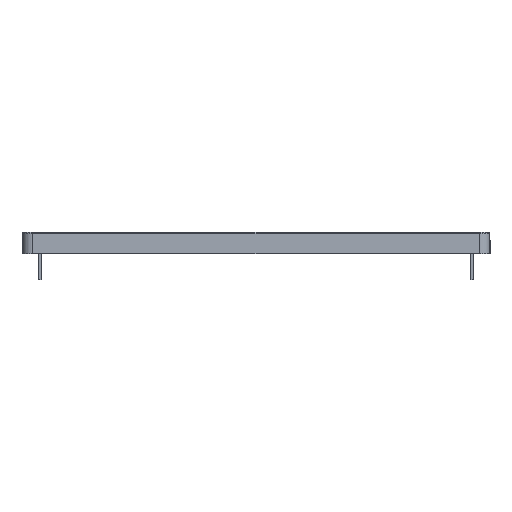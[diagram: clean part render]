
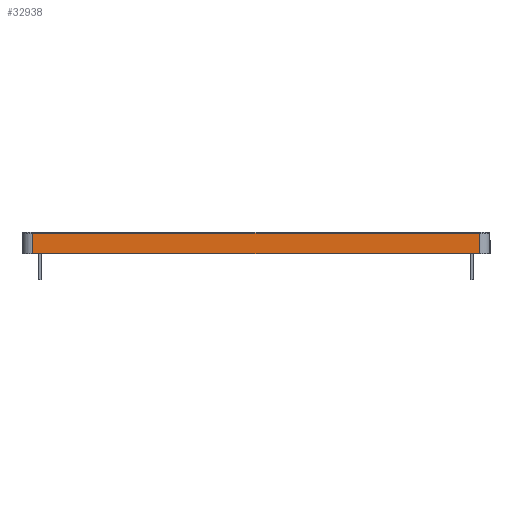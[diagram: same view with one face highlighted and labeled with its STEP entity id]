
A CAD part, front view. The second image highlights one B-rep face of the part: STEP entity #32938.
In plain terms, the highlighted planar face has unit normal (0, -1, 0).
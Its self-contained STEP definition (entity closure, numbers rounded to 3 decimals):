
#1294 = PLANE('',#1295);
#1295 = AXIS2_PLACEMENT_3D('',#1296,#1297,#1298);
#1296 = CARTESIAN_POINT('',(-106.8,-192.95,15.25));
#1297 = DIRECTION('',(0.,0.,1.));
#1298 = DIRECTION('',(1.,0.,-0.));
#1712 = PLANE('',#1713);
#1713 = AXIS2_PLACEMENT_3D('',#1714,#1715,#1716);
#1714 = CARTESIAN_POINT('',(102.,-192.7,24.75));
#1715 = DIRECTION('',(0.,0.707,-0.707));
#1716 = DIRECTION('',(-1.,0.,-0.));
#21785 = VERTEX_POINT('',#21786);
#21786 = CARTESIAN_POINT('',(-102.,-192.95,15.25));
#21801 = CYLINDRICAL_SURFACE('',#21802,4.8);
#21802 = AXIS2_PLACEMENT_3D('',#21803,#21804,#21805);
#21803 = CARTESIAN_POINT('',(-102.,-188.15,15.25));
#21804 = DIRECTION('',(0.,0.,1.));
#21805 = DIRECTION('',(-1.,-0.,0.));
#21813 = EDGE_CURVE('',#21785,#21814,#21816,.T.);
#21814 = VERTEX_POINT('',#21815);
#21815 = CARTESIAN_POINT('',(102.,-192.95,15.25));
#21816 = SURFACE_CURVE('',#21817,(#21821,#21828),.PCURVE_S1.);
#21817 = LINE('',#21818,#21819);
#21818 = CARTESIAN_POINT('',(-106.8,-192.95,15.25));
#21819 = VECTOR('',#21820,1.);
#21820 = DIRECTION('',(1.,0.,0.));
#21821 = PCURVE('',#1294,#21822);
#21822 = DEFINITIONAL_REPRESENTATION('',(#21823),#21827);
#21823 = LINE('',#21824,#21825);
#21824 = CARTESIAN_POINT('',(0.,0.));
#21825 = VECTOR('',#21826,1.);
#21826 = DIRECTION('',(1.,0.));
#21827 = ( GEOMETRIC_REPRESENTATION_CONTEXT(2) 
PARAMETRIC_REPRESENTATION_CONTEXT() REPRESENTATION_CONTEXT('2D SPACE',''
  ) );
#21828 = PCURVE('',#21829,#21834);
#21829 = PLANE('',#21830);
#21830 = AXIS2_PLACEMENT_3D('',#21831,#21832,#21833);
#21831 = CARTESIAN_POINT('',(-106.8,-192.95,15.25));
#21832 = DIRECTION('',(0.,1.,0.));
#21833 = DIRECTION('',(0.,-0.,1.));
#21834 = DEFINITIONAL_REPRESENTATION('',(#21835),#21839);
#21835 = LINE('',#21836,#21837);
#21836 = CARTESIAN_POINT('',(0.,0.));
#21837 = VECTOR('',#21838,1.);
#21838 = DIRECTION('',(0.,1.));
#21839 = ( GEOMETRIC_REPRESENTATION_CONTEXT(2) 
PARAMETRIC_REPRESENTATION_CONTEXT() REPRESENTATION_CONTEXT('2D SPACE',''
  ) );
#21862 = CYLINDRICAL_SURFACE('',#21863,4.8);
#21863 = AXIS2_PLACEMENT_3D('',#21864,#21865,#21866);
#21864 = CARTESIAN_POINT('',(102.,-188.15,15.25));
#21865 = DIRECTION('',(0.,0.,1.));
#21866 = DIRECTION('',(1.,0.,-0.));
#22579 = VERTEX_POINT('',#22580);
#22580 = CARTESIAN_POINT('',(102.,-192.95,24.5));
#22628 = EDGE_CURVE('',#22579,#22629,#22631,.T.);
#22629 = VERTEX_POINT('',#22630);
#22630 = CARTESIAN_POINT('',(-102.,-192.95,24.5));
#22631 = SURFACE_CURVE('',#22632,(#22636,#22643),.PCURVE_S1.);
#22632 = LINE('',#22633,#22634);
#22633 = CARTESIAN_POINT('',(102.,-192.95,24.5));
#22634 = VECTOR('',#22635,1.);
#22635 = DIRECTION('',(-1.,-0.,-0.));
#22636 = PCURVE('',#1712,#22637);
#22637 = DEFINITIONAL_REPRESENTATION('',(#22638),#22642);
#22638 = LINE('',#22639,#22640);
#22639 = CARTESIAN_POINT('',(0.,-0.354));
#22640 = VECTOR('',#22641,1.);
#22641 = DIRECTION('',(1.,0.));
#22642 = ( GEOMETRIC_REPRESENTATION_CONTEXT(2) 
PARAMETRIC_REPRESENTATION_CONTEXT() REPRESENTATION_CONTEXT('2D SPACE',''
  ) );
#22643 = PCURVE('',#21829,#22644);
#22644 = DEFINITIONAL_REPRESENTATION('',(#22645),#22649);
#22645 = LINE('',#22646,#22647);
#22646 = CARTESIAN_POINT('',(9.25,208.8));
#22647 = VECTOR('',#22648,1.);
#22648 = DIRECTION('',(0.,-1.));
#22649 = ( GEOMETRIC_REPRESENTATION_CONTEXT(2) 
PARAMETRIC_REPRESENTATION_CONTEXT() REPRESENTATION_CONTEXT('2D SPACE',''
  ) );
#32916 = EDGE_CURVE('',#21814,#22579,#32917,.T.);
#32917 = SURFACE_CURVE('',#32918,(#32922,#32929),.PCURVE_S1.);
#32918 = LINE('',#32919,#32920);
#32919 = CARTESIAN_POINT('',(102.,-192.95,15.25));
#32920 = VECTOR('',#32921,1.);
#32921 = DIRECTION('',(0.,0.,1.));
#32922 = PCURVE('',#21862,#32923);
#32923 = DEFINITIONAL_REPRESENTATION('',(#32924),#32928);
#32924 = LINE('',#32925,#32926);
#32925 = CARTESIAN_POINT('',(-1.571,0.));
#32926 = VECTOR('',#32927,1.);
#32927 = DIRECTION('',(-0.,1.));
#32928 = ( GEOMETRIC_REPRESENTATION_CONTEXT(2) 
PARAMETRIC_REPRESENTATION_CONTEXT() REPRESENTATION_CONTEXT('2D SPACE',''
  ) );
#32929 = PCURVE('',#21829,#32930);
#32930 = DEFINITIONAL_REPRESENTATION('',(#32931),#32935);
#32931 = LINE('',#32932,#32933);
#32932 = CARTESIAN_POINT('',(0.,208.8));
#32933 = VECTOR('',#32934,1.);
#32934 = DIRECTION('',(1.,0.));
#32935 = ( GEOMETRIC_REPRESENTATION_CONTEXT(2) 
PARAMETRIC_REPRESENTATION_CONTEXT() REPRESENTATION_CONTEXT('2D SPACE',''
  ) );
#32938 = ADVANCED_FACE('',(#32939),#21829,.F.);
#32939 = FACE_BOUND('',#32940,.F.);
#32940 = EDGE_LOOP('',(#32941,#32942,#32943,#32964));
#32941 = ORIENTED_EDGE('',*,*,#32916,.F.);
#32942 = ORIENTED_EDGE('',*,*,#21813,.F.);
#32943 = ORIENTED_EDGE('',*,*,#32944,.T.);
#32944 = EDGE_CURVE('',#21785,#22629,#32945,.T.);
#32945 = SURFACE_CURVE('',#32946,(#32950,#32957),.PCURVE_S1.);
#32946 = LINE('',#32947,#32948);
#32947 = CARTESIAN_POINT('',(-102.,-192.95,15.25));
#32948 = VECTOR('',#32949,1.);
#32949 = DIRECTION('',(0.,0.,1.));
#32950 = PCURVE('',#21829,#32951);
#32951 = DEFINITIONAL_REPRESENTATION('',(#32952),#32956);
#32952 = LINE('',#32953,#32954);
#32953 = CARTESIAN_POINT('',(0.,4.8));
#32954 = VECTOR('',#32955,1.);
#32955 = DIRECTION('',(1.,0.));
#32956 = ( GEOMETRIC_REPRESENTATION_CONTEXT(2) 
PARAMETRIC_REPRESENTATION_CONTEXT() REPRESENTATION_CONTEXT('2D SPACE',''
  ) );
#32957 = PCURVE('',#21801,#32958);
#32958 = DEFINITIONAL_REPRESENTATION('',(#32959),#32963);
#32959 = LINE('',#32960,#32961);
#32960 = CARTESIAN_POINT('',(1.571,0.));
#32961 = VECTOR('',#32962,1.);
#32962 = DIRECTION('',(0.,1.));
#32963 = ( GEOMETRIC_REPRESENTATION_CONTEXT(2) 
PARAMETRIC_REPRESENTATION_CONTEXT() REPRESENTATION_CONTEXT('2D SPACE',''
  ) );
#32964 = ORIENTED_EDGE('',*,*,#22628,.F.);
